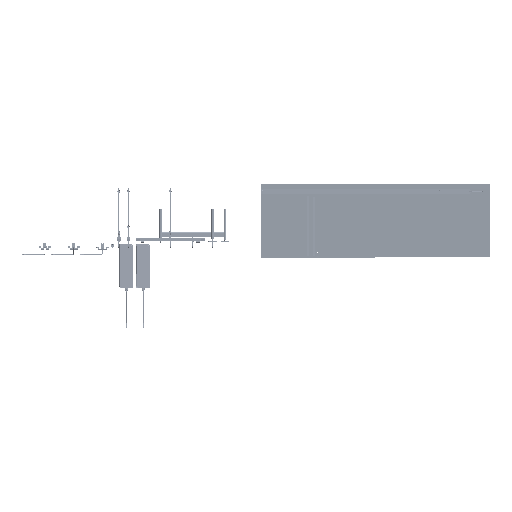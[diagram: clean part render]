
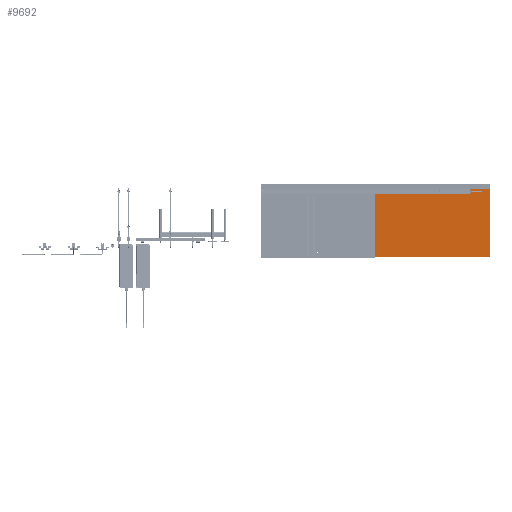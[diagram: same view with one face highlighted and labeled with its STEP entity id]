
A CAD part, top view. The second image highlights one B-rep face of the part: STEP entity #9692.
In plain terms, the highlighted planar face has unit normal (0, -0.07, 0.998).
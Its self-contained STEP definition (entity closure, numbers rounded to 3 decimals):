
#3916=FACE_BOUND('',#47214,.T.);
#9692=ADVANCED_FACE('',(#28276,#3916),#314941,.T.);
#28276=FACE_OUTER_BOUND('',#47213,.T.);
#47213=EDGE_LOOP('',(#89561,#89562,#89563,#89564));
#47214=EDGE_LOOP('',(#89565,#89566));
#89561=ORIENTED_EDGE('',*,*,#180196,.T.);
#89562=ORIENTED_EDGE('',*,*,#180193,.F.);
#89563=ORIENTED_EDGE('',*,*,#180197,.F.);
#89564=ORIENTED_EDGE('',*,*,#180187,.F.);
#89565=ORIENTED_EDGE('',*,*,#180152,.T.);
#89566=ORIENTED_EDGE('',*,*,#180191,.T.);
#180152=EDGE_CURVE('',#285811,#285810,#265876,.T.);
#180187=EDGE_CURVE('',#285840,#285826,#231047,.T.);
#180191=EDGE_CURVE('',#285810,#285811,#265878,.T.);
#180193=EDGE_CURVE('',#285827,#285841,#231051,.T.);
#180196=EDGE_CURVE('',#285840,#285841,#231054,.T.);
#180197=EDGE_CURVE('',#285826,#285827,#231055,.T.);
#231047=B_SPLINE_CURVE_WITH_KNOTS('',1,(#459720,#459721),.UNSPECIFIED.,
 .F.,.F.,(2,2),(0.,1243.),.UNSPECIFIED.);
#231051=B_SPLINE_CURVE_WITH_KNOTS('',1,(#459734,#459735),.UNSPECIFIED.,
 .F.,.F.,(2,2),(0.,1243.),.UNSPECIFIED.);
#231054=B_SPLINE_CURVE_WITH_KNOTS('',1,(#459740,#459741),.UNSPECIFIED.,
 .F.,.F.,(2,2),(0.,378.),.UNSPECIFIED.);
#231055=B_SPLINE_CURVE_WITH_KNOTS('',1,(#459742,#459743),.UNSPECIFIED.,
 .F.,.F.,(2,2),(-378.,0.),.UNSPECIFIED.);
#265876=TRIMMED_CURVE($,#271906,(#459650),(#459651),.T.,.CARTESIAN.);
#265878=TRIMMED_CURVE($,#271908,(#459730),(#459731),.T.,.CARTESIAN.);
#271906=CIRCLE('',#333701,3.5);
#271908=CIRCLE('',#333703,3.5);
#285810=VERTEX_POINT('',#459610);
#285811=VERTEX_POINT('',#459611);
#285826=VERTEX_POINT('',#459626);
#285827=VERTEX_POINT('',#459627);
#285840=VERTEX_POINT('',#459640);
#285841=VERTEX_POINT('',#459641);
#314941=PLANE('',#333696);
#333696=AXIS2_PLACEMENT_3D('',#459604,#357758,$);
#333701=AXIS2_PLACEMENT_3D($,#459649,#357764,#357765);
#333703=AXIS2_PLACEMENT_3D($,#459729,#357768,#357769);
#357758=DIRECTION('',(0.,-0.07,0.998));
#357764=DIRECTION('',(0.,0.07,-0.998));
#357765=DIRECTION('',(0.,0.998,0.07));
#357768=DIRECTION('',(0.,0.07,-0.998));
#357769=DIRECTION('',(0.,-0.998,-0.07));
#459604=CARTESIAN_POINT('',(811.982,-79.003,916.884));
#459610=CARTESIAN_POINT('',(1245.282,-17.851,921.16));
#459611=CARTESIAN_POINT('',(1245.282,-10.868,921.648));
#459626=CARTESIAN_POINT('',(2179.282,335.785,945.889));
#459627=CARTESIAN_POINT('',(2179.282,-41.294,919.521));
#459640=CARTESIAN_POINT('',(936.282,335.785,945.889));
#459641=CARTESIAN_POINT('',(936.282,-41.294,919.521));
#459649=CARTESIAN_POINT('',(1245.282,-14.36,921.404));
#459650=CARTESIAN_POINT('',(1245.282,-10.868,921.648));
#459651=CARTESIAN_POINT('',(1245.282,-17.851,921.16));
#459720=CARTESIAN_POINT('',(936.282,335.785,945.889));
#459721=CARTESIAN_POINT('',(2179.282,335.785,945.889));
#459729=CARTESIAN_POINT('',(1245.282,-14.36,921.404));
#459730=CARTESIAN_POINT('',(1245.282,-17.851,921.16));
#459731=CARTESIAN_POINT('',(1245.282,-10.868,921.648));
#459734=CARTESIAN_POINT('',(2179.282,-41.294,919.521));
#459735=CARTESIAN_POINT('',(936.282,-41.294,919.521));
#459740=CARTESIAN_POINT('',(936.282,335.785,945.889));
#459741=CARTESIAN_POINT('',(936.282,-41.294,919.521));
#459742=CARTESIAN_POINT('',(2179.282,335.785,945.889));
#459743=CARTESIAN_POINT('',(2179.282,-41.294,919.521));
